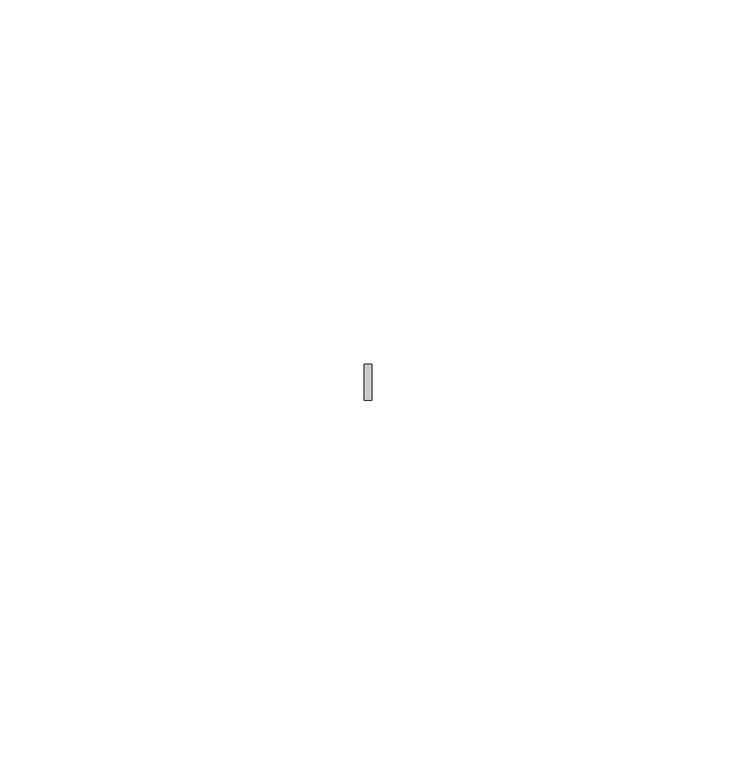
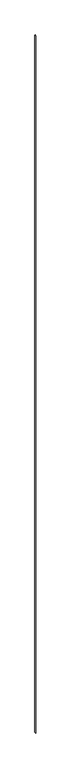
"""IFC4 building model written with IfcOpenShell, lengths in millimetres: member geometry, Прямоугольный импост : 9-AMG-1-Профиль (скотч 3М) 1 средний."""

from ifc_helpers import new_model, si_unit, frame, origin, place, context, project, spatial, polyline, outline, extrude, source, transform, mapped, element, save


def member_2ce364fc(model_context):
    return source(origin(), model_context, "Body", "SweptSolid", [
        extrude(outline(polyline([(0.5087396, 2.5), (0.5087396, -2.5), (-0.5292752, -2.5), (-0.5292752, 2.5), (0.5087396, 2.5)])), frame((0.0, 0.0, -2748.0), z_axis=(0.0, 0.0, 1.0), x_axis=(1.0, 0.0, 0.0)), (0.0, 0.0, 1.0), 2748.0),
    ])


if __name__ == "__main__":
    model = new_model("IFC4")
    model_context = context("Model", 3, world=origin())
    ifc_project = project(units=[si_unit("LENGTHUNIT", "METRE", prefix="MILLI")], contexts=[model_context])
    site = spatial("IfcSite", under=ifc_project)
    building = spatial("IfcBuilding", under=site)
    placement = place(None, origin())
    member_shape = member_2ce364fc(model_context)
    element("IfcMember", 1, ObjectType="Прямоугольный импост : 9-AMG-1-Профиль (скотч 3М) 1 средний", at=placement, inside=building, context=model_context, shape_type="MappedRepresentation", body=[
        mapped(member_shape, transform((0.0, 0.0, 0.0), x_axis=(1.0, 0.0, 0.0), y_axis=(0.0, 1.0, 0.0), z_axis=(0.0, 0.0, 1.0))),
    ])
    save(model, "model.ifc")
